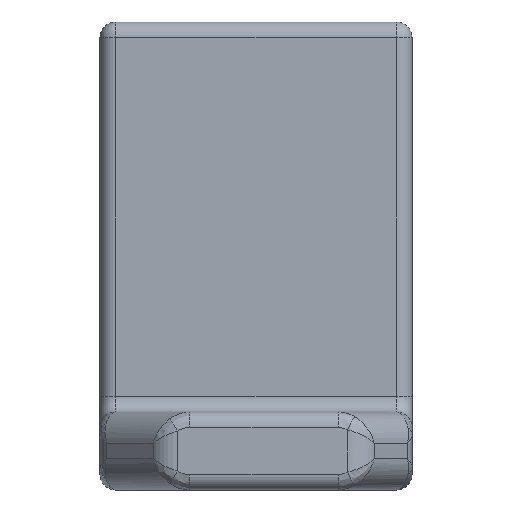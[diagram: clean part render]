
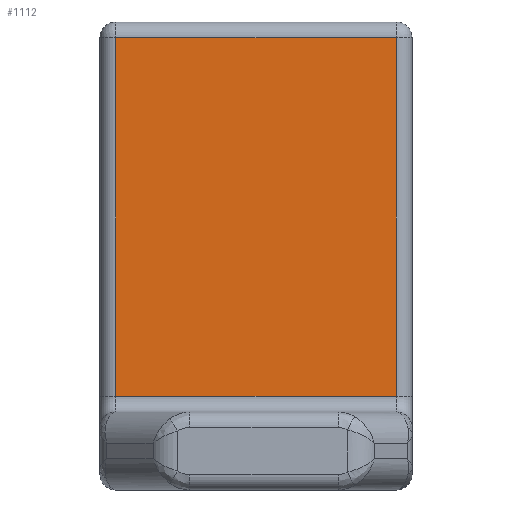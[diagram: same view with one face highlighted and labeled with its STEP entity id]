
A CAD part, front view. The second image highlights one B-rep face of the part: STEP entity #1112.
In plain terms, the highlighted planar face has unit normal (0, -1, 0).
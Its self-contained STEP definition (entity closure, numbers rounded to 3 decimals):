
#39=PLANE('',#1268);
#91=LINE('',#2218,#158);
#95=LINE('',#2247,#162);
#96=LINE('',#2251,#163);
#97=LINE('',#2252,#164);
#158=VECTOR('',#1556,10.);
#162=VECTOR('',#1596,10.);
#163=VECTOR('',#1601,10.);
#164=VECTOR('',#1602,10.);
#267=FACE_OUTER_BOUND('',#346,.T.);
#346=EDGE_LOOP('',(#957,#958,#959,#960));
#534=VERTEX_POINT('',#2212);
#535=VERTEX_POINT('',#2216);
#542=VERTEX_POINT('',#2246);
#543=VERTEX_POINT('',#2250);
#669=EDGE_CURVE('',#535,#534,#91,.T.);
#683=EDGE_CURVE('',#534,#542,#95,.T.);
#685=EDGE_CURVE('',#543,#535,#96,.T.);
#686=EDGE_CURVE('',#542,#543,#97,.T.);
#957=ORIENTED_EDGE('',*,*,#669,.F.);
#958=ORIENTED_EDGE('',*,*,#685,.F.);
#959=ORIENTED_EDGE('',*,*,#686,.F.);
#960=ORIENTED_EDGE('',*,*,#683,.F.);
#1112=ADVANCED_FACE('',(#267),#39,.F.);
#1268=AXIS2_PLACEMENT_3D('',#2249,#1599,#1600);
#1556=DIRECTION('',(0.,0.,-1.));
#1596=DIRECTION('',(-1.,0.,0.));
#1599=DIRECTION('center_axis',(0.,1.,0.));
#1600=DIRECTION('ref_axis',(0.,0.,1.));
#1601=DIRECTION('',(1.,0.,0.));
#1602=DIRECTION('',(0.,0.,1.));
#2212=CARTESIAN_POINT('',(19.,17.,6.));
#2216=CARTESIAN_POINT('',(19.,17.,29.));
#2218=CARTESIAN_POINT('',(19.,17.,10.));
#2246=CARTESIAN_POINT('',(1.,17.,6.));
#2247=CARTESIAN_POINT('',(10.,17.,6.));
#2249=CARTESIAN_POINT('Origin',(10.,17.,17.5));
#2250=CARTESIAN_POINT('',(1.,17.,29.));
#2251=CARTESIAN_POINT('',(10.,17.,29.));
#2252=CARTESIAN_POINT('',(1.,17.,10.));
